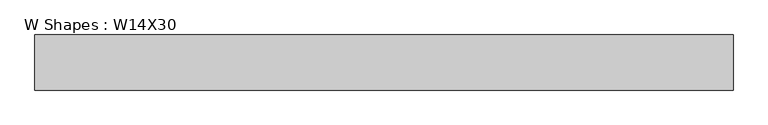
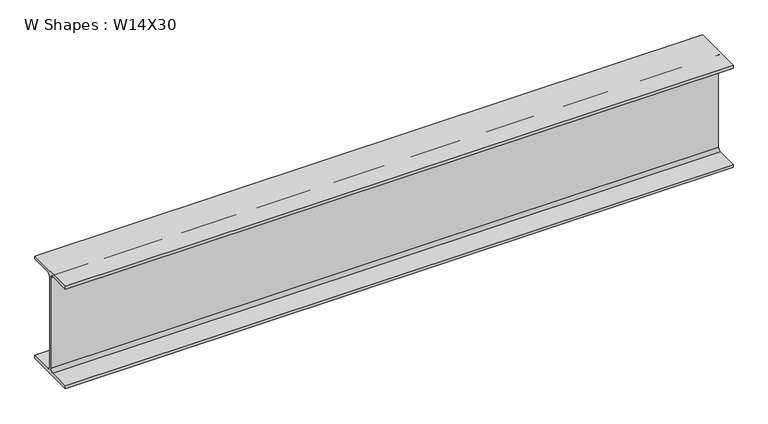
"""IFC4 building model written with IfcOpenShell, lengths in millimetres: beam geometry, W Shapes : W14X30."""

from ifc_helpers import new_model, si_unit, point, frame, frame_2d, origin, place, context, project, spatial, polyline, circle_curve, trimmed, segment, composite_curve, outline, extrude, source, transform, mapped, element, save


def w_shapes_w14x30_39967a85(model_context):
    return source(origin(), model_context, "Body", "SweptSolid", [
        extrude(outline(composite_curve([segment(polyline([(85.471, -165.481), (85.471, -175.26), (-85.471, -175.26), (-85.471, -165.481), (-13.589, -165.481)]), True, "CONTINUOUS"), segment(trimmed(circle_curve(frame_2d((-13.589, -155.321)), 10.16), [point((-13.589, -165.481))], [point((-3.429, -155.321))], True, "CARTESIAN"), True, "CONTINUOUS"), segment(polyline([(-3.429, -155.321), (-3.429, 155.321)]), True, "CONTINUOUS"), segment(trimmed(circle_curve(frame_2d((-13.589, 155.321)), 10.16), [point((-3.429, 155.321))], [point((-13.589, 165.481))], True, "CARTESIAN"), True, "CONTINUOUS"), segment(polyline([(-13.589, 165.481), (-85.471, 165.481), (-85.471, 175.26), (85.471, 175.26), (85.471, 165.481), (13.589, 165.481)]), True, "CONTINUOUS"), segment(trimmed(circle_curve(frame_2d((13.589, 155.321)), 10.16), [point((13.589, 165.481))], [point((3.429, 155.321))], True, "CARTESIAN"), True, "CONTINUOUS"), segment(polyline([(3.429, 155.321), (3.429, -155.321)]), True, "CONTINUOUS"), segment(trimmed(circle_curve(frame_2d((13.589, -155.321)), 10.16), [point((3.429, -155.321))], [point((13.589, -165.481))], True, "CARTESIAN"), True, "CONTINUOUS"), segment(polyline([(13.589, -165.481), (85.471, -165.481)]), True, "CONTINUOUS")], self_intersect=False)), frame((-1067.6147122, 0.0, 0.0), z_axis=(1.0, 0.0, 0.0), x_axis=(0.0, 1.0, 0.0)), (0.0, 0.0, 1.0), 2163.7064301),
    ])


if __name__ == "__main__":
    model = new_model("IFC4")
    model_context = context("Model", 3, world=origin())
    ifc_project = project(units=[si_unit("LENGTHUNIT", "METRE", prefix="MILLI")], contexts=[model_context])
    site = spatial("IfcSite", under=ifc_project)
    building = spatial("IfcBuilding", under=site)
    placement = place(None, origin())
    w_shapes_w14x30_shape = w_shapes_w14x30_39967a85(model_context)
    element("IfcBeam", 1, ObjectType="W Shapes : W14X30", at=placement, inside=building, context=model_context, shape_type="MappedRepresentation", body=[
        mapped(w_shapes_w14x30_shape, transform((0.0, 0.0, 0.0), x_axis=(1.0, 0.0, 0.0), y_axis=(0.0, 1.0, 0.0), z_axis=(0.0, 0.0, 1.0))),
    ])
    save(model, "model.ifc")
